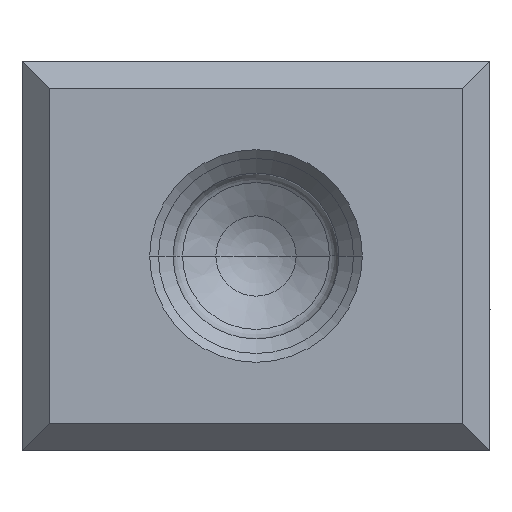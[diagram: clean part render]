
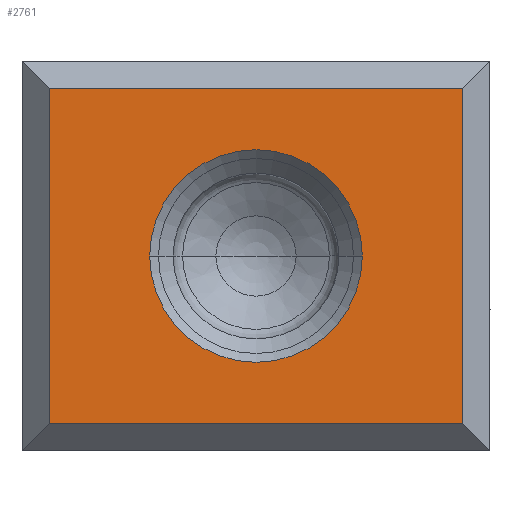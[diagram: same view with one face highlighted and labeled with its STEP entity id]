
A CAD part, left-side view. The second image highlights one B-rep face of the part: STEP entity #2761.
In plain terms, the highlighted planar face has unit normal (-1, 0, 0).
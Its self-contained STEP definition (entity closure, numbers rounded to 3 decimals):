
#509=DIRECTION('',(0.,1.,0.));
#510=VECTOR('',#509,10.6);
#511=CARTESIAN_POINT('',(-22.,0.7,4.3));
#512=LINE('',#511,#510);
#517=DIRECTION('',(0.,0.,-1.));
#518=VECTOR('',#517,8.6);
#519=CARTESIAN_POINT('',(-22.,0.7,4.3));
#520=LINE('',#519,#518);
#521=DIRECTION('',(0.,1.,0.));
#522=VECTOR('',#521,10.6);
#523=CARTESIAN_POINT('',(-22.,0.7,-4.3));
#524=LINE('',#523,#522);
#525=CARTESIAN_POINT('',(-22.,6.,0.));
#526=DIRECTION('',(-1.,0.,0.));
#527=DIRECTION('',(0.,1.,0.));
#528=AXIS2_PLACEMENT_3D('',#525,#526,#527);
#530=CARTESIAN_POINT('',(-22.,6.,0.));
#531=DIRECTION('',(-1.,0.,0.));
#532=DIRECTION('',(0.,-1.,0.));
#533=AXIS2_PLACEMENT_3D('',#530,#531,#532);
#875=DIRECTION('',(0.,0.,-1.));
#876=VECTOR('',#875,8.6);
#877=CARTESIAN_POINT('',(-22.,11.3,4.3));
#878=LINE('',#877,#876);
#1376=CARTESIAN_POINT('',(-22.,0.7,4.3));
#1377=CARTESIAN_POINT('',(-22.,11.3,4.3));
#1378=VERTEX_POINT('',#1376);
#1379=VERTEX_POINT('',#1377);
#1380=CARTESIAN_POINT('',(-22.,0.7,-4.3));
#1381=VERTEX_POINT('',#1380);
#1382=CARTESIAN_POINT('',(-22.,11.3,-4.3));
#1383=VERTEX_POINT('',#1382);
#1384=CARTESIAN_POINT('',(-22.,8.725,0.));
#1385=CARTESIAN_POINT('',(-22.,3.275,0.));
#1386=VERTEX_POINT('',#1384);
#1387=VERTEX_POINT('',#1385);
#2741=CARTESIAN_POINT('',(-22.,12.25,-6.25));
#2742=DIRECTION('',(-1.,0.,0.));
#2743=DIRECTION('',(0.,-1.,0.));
#2744=AXIS2_PLACEMENT_3D('',#2741,#2742,#2743);
#2745=PLANE('',#2744);
#2747=ORIENTED_EDGE('',*,*,#2746,.T.);
#2749=ORIENTED_EDGE('',*,*,#2748,.T.);
#2751=ORIENTED_EDGE('',*,*,#2750,.F.);
#2752=ORIENTED_EDGE('',*,*,#2731,.F.);
#2753=EDGE_LOOP('',(#2747,#2749,#2751,#2752));
#2754=FACE_OUTER_BOUND('',#2753,.F.);
#2756=ORIENTED_EDGE('',*,*,#2755,.T.);
#2758=ORIENTED_EDGE('',*,*,#2757,.T.);
#2759=EDGE_LOOP('',(#2756,#2758));
#2760=FACE_BOUND('',#2759,.F.);
#2761=ADVANCED_FACE('',(#2754,#2760),#2745,.T.);
#529=CIRCLE('',#528,2.725);
#534=CIRCLE('',#533,2.725);
#2731=EDGE_CURVE('',#1378,#1379,#512,.T.);
#2746=EDGE_CURVE('',#1378,#1381,#520,.T.);
#2748=EDGE_CURVE('',#1381,#1383,#524,.T.);
#2750=EDGE_CURVE('',#1379,#1383,#878,.T.);
#2755=EDGE_CURVE('',#1386,#1387,#529,.T.);
#2757=EDGE_CURVE('',#1387,#1386,#534,.T.);
